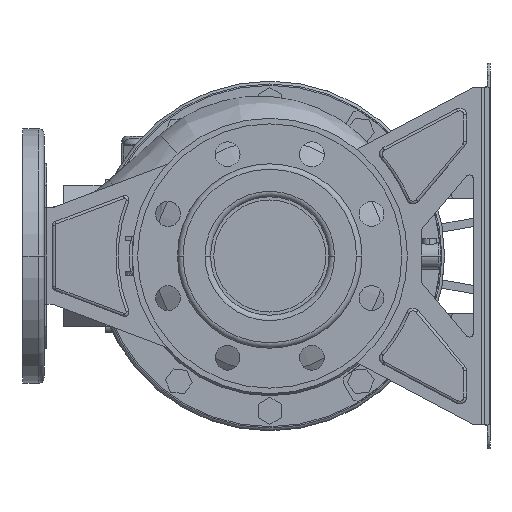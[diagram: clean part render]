
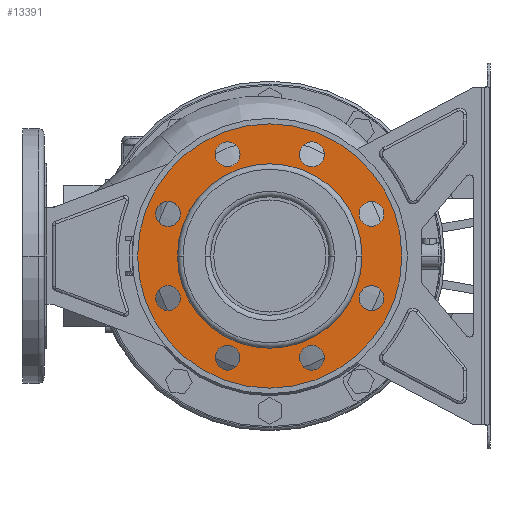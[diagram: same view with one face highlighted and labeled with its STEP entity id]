
A CAD part, left-side view. The second image highlights one B-rep face of the part: STEP entity #13391.
In plain terms, the highlighted planar face has unit normal (-1, 0, 0).
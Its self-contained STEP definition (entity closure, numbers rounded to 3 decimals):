
#12524=CARTESIAN_POINT('',(14.,0.,0.));
#12525=DIRECTION('',(-1.,0.,0.));
#12526=DIRECTION('',(0.,1.,0.));
#12527=AXIS2_PLACEMENT_3D('',#12524,#12525,#12526);
#12532=CARTESIAN_POINT('',(14.,0.,0.));
#12533=DIRECTION('',(1.,0.,0.));
#12534=DIRECTION('',(0.,1.,0.));
#12535=AXIS2_PLACEMENT_3D('',#12532,#12533,#12534);
#12540=CARTESIAN_POINT('',(14.,-73.91,30.615));
#12541=DIRECTION('',(1.,0.,0.));
#12542=DIRECTION('',(0.,1.,0.));
#12543=AXIS2_PLACEMENT_3D('',#12540,#12541,#12542);
#12548=CARTESIAN_POINT('',(14.,-73.91,30.615));
#12549=DIRECTION('',(1.,0.,0.));
#12550=DIRECTION('',(0.,-1.,0.));
#12551=AXIS2_PLACEMENT_3D('',#12548,#12549,#12550);
#12556=CARTESIAN_POINT('',(14.,-73.91,-30.615));
#12557=DIRECTION('',(1.,0.,0.));
#12558=DIRECTION('',(0.,0.707,0.707));
#12559=AXIS2_PLACEMENT_3D('',#12556,#12557,#12558);
#12564=CARTESIAN_POINT('',(14.,-73.91,-30.615));
#12565=DIRECTION('',(1.,0.,0.));
#12566=DIRECTION('',(0.,-0.707,-0.707));
#12567=AXIS2_PLACEMENT_3D('',#12564,#12565,#12566);
#12572=CARTESIAN_POINT('',(14.,-30.615,-73.91));
#12573=DIRECTION('',(1.,0.,0.));
#12574=DIRECTION('',(0.,0.,1.));
#12575=AXIS2_PLACEMENT_3D('',#12572,#12573,#12574);
#12580=CARTESIAN_POINT('',(14.,-30.615,-73.91));
#12581=DIRECTION('',(1.,0.,0.));
#12582=DIRECTION('',(0.,0.,-1.));
#12583=AXIS2_PLACEMENT_3D('',#12580,#12581,#12582);
#12588=CARTESIAN_POINT('',(14.,30.615,-73.91));
#12589=DIRECTION('',(1.,0.,0.));
#12590=DIRECTION('',(0.,-0.707,0.707));
#12591=AXIS2_PLACEMENT_3D('',#12588,#12589,#12590);
#12596=CARTESIAN_POINT('',(14.,30.615,-73.91));
#12597=DIRECTION('',(1.,0.,0.));
#12598=DIRECTION('',(0.,0.707,-0.707));
#12599=AXIS2_PLACEMENT_3D('',#12596,#12597,#12598);
#12604=CARTESIAN_POINT('',(14.,73.91,-30.615));
#12605=DIRECTION('',(1.,0.,0.));
#12606=DIRECTION('',(0.,-1.,0.));
#12607=AXIS2_PLACEMENT_3D('',#12604,#12605,#12606);
#12612=CARTESIAN_POINT('',(14.,73.91,-30.615));
#12613=DIRECTION('',(1.,0.,0.));
#12614=DIRECTION('',(0.,1.,0.));
#12615=AXIS2_PLACEMENT_3D('',#12612,#12613,#12614);
#12620=CARTESIAN_POINT('',(14.,73.91,30.615));
#12621=DIRECTION('',(1.,0.,0.));
#12622=DIRECTION('',(0.,-0.707,-0.707));
#12623=AXIS2_PLACEMENT_3D('',#12620,#12621,#12622);
#12628=CARTESIAN_POINT('',(14.,73.91,30.615));
#12629=DIRECTION('',(1.,0.,0.));
#12630=DIRECTION('',(0.,0.707,0.707));
#12631=AXIS2_PLACEMENT_3D('',#12628,#12629,#12630);
#12636=CARTESIAN_POINT('',(14.,30.615,73.91));
#12637=DIRECTION('',(1.,0.,0.));
#12638=DIRECTION('',(0.,0.,-1.));
#12639=AXIS2_PLACEMENT_3D('',#12636,#12637,#12638);
#12644=CARTESIAN_POINT('',(14.,30.615,73.91));
#12645=DIRECTION('',(1.,0.,0.));
#12646=DIRECTION('',(0.,0.,1.));
#12647=AXIS2_PLACEMENT_3D('',#12644,#12645,#12646);
#12652=CARTESIAN_POINT('',(14.,-30.615,73.91));
#12653=DIRECTION('',(1.,0.,0.));
#12654=DIRECTION('',(0.,0.707,-0.707));
#12655=AXIS2_PLACEMENT_3D('',#12652,#12653,#12654);
#12660=CARTESIAN_POINT('',(14.,-30.615,73.91));
#12661=DIRECTION('',(1.,0.,0.));
#12662=DIRECTION('',(0.,-0.707,0.707));
#12663=AXIS2_PLACEMENT_3D('',#12660,#12661,#12662);
#12668=CARTESIAN_POINT('',(14.,0.,0.));
#12669=DIRECTION('',(1.,0.,0.));
#12670=DIRECTION('',(0.,1.,0.));
#12671=AXIS2_PLACEMENT_3D('',#12668,#12669,#12670);
#12690=CARTESIAN_POINT('',(14.,0.,0.));
#12691=DIRECTION('',(-1.,0.,0.));
#12692=DIRECTION('',(0.,1.,0.));
#12693=AXIS2_PLACEMENT_3D('',#12690,#12691,#12692);
#12911=CARTESIAN_POINT('',(14.,96.,0.));
#12913=VERTEX_POINT('',#12911);
#12914=CARTESIAN_POINT('',(14.,67.,0.));
#12916=VERTEX_POINT('',#12914);
#12943=CARTESIAN_POINT('',(14.,-96.,0.));
#12945=VERTEX_POINT('',#12943);
#12946=CARTESIAN_POINT('',(14.,-67.,0.));
#12948=VERTEX_POINT('',#12946);
#12958=CARTESIAN_POINT('',(14.,-64.91,30.615));
#12959=CARTESIAN_POINT('',(14.,-82.91,30.615));
#12960=VERTEX_POINT('',#12958);
#12961=VERTEX_POINT('',#12959);
#12966=CARTESIAN_POINT('',(14.,-67.546,-24.251));
#12967=CARTESIAN_POINT('',(14.,-80.274,-36.979));
#12968=VERTEX_POINT('',#12966);
#12969=VERTEX_POINT('',#12967);
#12974=CARTESIAN_POINT('',(14.,-30.615,-64.91));
#12975=CARTESIAN_POINT('',(14.,-30.615,-82.91));
#12976=VERTEX_POINT('',#12974);
#12977=VERTEX_POINT('',#12975);
#12982=CARTESIAN_POINT('',(14.,24.251,-67.546));
#12983=CARTESIAN_POINT('',(14.,36.979,-80.274));
#12984=VERTEX_POINT('',#12982);
#12985=VERTEX_POINT('',#12983);
#12990=CARTESIAN_POINT('',(14.,64.91,-30.615));
#12991=CARTESIAN_POINT('',(14.,82.91,-30.615));
#12992=VERTEX_POINT('',#12990);
#12993=VERTEX_POINT('',#12991);
#12998=CARTESIAN_POINT('',(14.,67.546,24.251));
#12999=CARTESIAN_POINT('',(14.,80.274,36.979));
#13000=VERTEX_POINT('',#12998);
#13001=VERTEX_POINT('',#12999);
#13006=CARTESIAN_POINT('',(14.,30.615,64.91));
#13007=CARTESIAN_POINT('',(14.,30.615,82.91));
#13008=VERTEX_POINT('',#13006);
#13009=VERTEX_POINT('',#13007);
#13014=CARTESIAN_POINT('',(14.,-24.251,67.546));
#13015=CARTESIAN_POINT('',(14.,-36.979,80.274));
#13016=VERTEX_POINT('',#13014);
#13017=VERTEX_POINT('',#13015);
#13328=CARTESIAN_POINT('',(14.,0.,0.));
#13329=DIRECTION('',(1.,0.,0.));
#13330=DIRECTION('',(0.,-1.,0.));
#13331=AXIS2_PLACEMENT_3D('',#13328,#13329,#13330);
#13332=PLANE('',#13331);
#13333=ORIENTED_EDGE('',*,*,#13321,.F.);
#13334=ORIENTED_EDGE('',*,*,#13310,.T.);
#13335=EDGE_LOOP('',(#13333,#13334));
#13336=FACE_OUTER_BOUND('',#13335,.F.);
#13338=ORIENTED_EDGE('',*,*,#13337,.F.);
#13340=ORIENTED_EDGE('',*,*,#13339,.T.);
#13341=EDGE_LOOP('',(#13338,#13340));
#13342=FACE_BOUND('',#13341,.F.);
#13344=ORIENTED_EDGE('',*,*,#13343,.F.);
#13346=ORIENTED_EDGE('',*,*,#13345,.F.);
#13347=EDGE_LOOP('',(#13344,#13346));
#13348=FACE_BOUND('',#13347,.F.);
#13350=ORIENTED_EDGE('',*,*,#13349,.F.);
#13352=ORIENTED_EDGE('',*,*,#13351,.F.);
#13353=EDGE_LOOP('',(#13350,#13352));
#13354=FACE_BOUND('',#13353,.F.);
#13356=ORIENTED_EDGE('',*,*,#13355,.F.);
#13358=ORIENTED_EDGE('',*,*,#13357,.F.);
#13359=EDGE_LOOP('',(#13356,#13358));
#13360=FACE_BOUND('',#13359,.F.);
#13362=ORIENTED_EDGE('',*,*,#13361,.F.);
#13364=ORIENTED_EDGE('',*,*,#13363,.F.);
#13365=EDGE_LOOP('',(#13362,#13364));
#13366=FACE_BOUND('',#13365,.F.);
#13368=ORIENTED_EDGE('',*,*,#13367,.F.);
#13370=ORIENTED_EDGE('',*,*,#13369,.F.);
#13371=EDGE_LOOP('',(#13368,#13370));
#13372=FACE_BOUND('',#13371,.F.);
#13374=ORIENTED_EDGE('',*,*,#13373,.F.);
#13376=ORIENTED_EDGE('',*,*,#13375,.F.);
#13377=EDGE_LOOP('',(#13374,#13376));
#13378=FACE_BOUND('',#13377,.F.);
#13380=ORIENTED_EDGE('',*,*,#13379,.F.);
#13382=ORIENTED_EDGE('',*,*,#13381,.F.);
#13383=EDGE_LOOP('',(#13380,#13382));
#13384=FACE_BOUND('',#13383,.F.);
#13386=ORIENTED_EDGE('',*,*,#13385,.F.);
#13388=ORIENTED_EDGE('',*,*,#13387,.F.);
#13389=EDGE_LOOP('',(#13386,#13388));
#13390=FACE_BOUND('',#13389,.F.);
#12528=CIRCLE('',#12527,96.);
#12536=CIRCLE('',#12535,96.);
#12544=CIRCLE('',#12543,9.);
#12552=CIRCLE('',#12551,9.);
#12560=CIRCLE('',#12559,9.);
#12568=CIRCLE('',#12567,9.);
#12576=CIRCLE('',#12575,9.);
#12584=CIRCLE('',#12583,9.);
#12592=CIRCLE('',#12591,9.);
#12600=CIRCLE('',#12599,9.);
#12608=CIRCLE('',#12607,9.);
#12616=CIRCLE('',#12615,9.);
#12624=CIRCLE('',#12623,9.);
#12632=CIRCLE('',#12631,9.);
#12640=CIRCLE('',#12639,9.);
#12648=CIRCLE('',#12647,9.);
#12656=CIRCLE('',#12655,9.);
#12664=CIRCLE('',#12663,9.);
#12672=CIRCLE('',#12671,67.);
#12694=CIRCLE('',#12693,67.);
#13310=EDGE_CURVE('',#12913,#12945,#12536,.T.);
#13321=EDGE_CURVE('',#12913,#12945,#12528,.T.);
#13337=EDGE_CURVE('',#12916,#12948,#12672,.T.);
#13339=EDGE_CURVE('',#12916,#12948,#12694,.T.);
#13343=EDGE_CURVE('',#12960,#12961,#12544,.T.);
#13345=EDGE_CURVE('',#12961,#12960,#12552,.T.);
#13349=EDGE_CURVE('',#12968,#12969,#12560,.T.);
#13351=EDGE_CURVE('',#12969,#12968,#12568,.T.);
#13355=EDGE_CURVE('',#12976,#12977,#12576,.T.);
#13357=EDGE_CURVE('',#12977,#12976,#12584,.T.);
#13361=EDGE_CURVE('',#12984,#12985,#12592,.T.);
#13363=EDGE_CURVE('',#12985,#12984,#12600,.T.);
#13367=EDGE_CURVE('',#12992,#12993,#12608,.T.);
#13369=EDGE_CURVE('',#12993,#12992,#12616,.T.);
#13373=EDGE_CURVE('',#13000,#13001,#12624,.T.);
#13375=EDGE_CURVE('',#13001,#13000,#12632,.T.);
#13379=EDGE_CURVE('',#13008,#13009,#12640,.T.);
#13381=EDGE_CURVE('',#13009,#13008,#12648,.T.);
#13385=EDGE_CURVE('',#13016,#13017,#12656,.T.);
#13387=EDGE_CURVE('',#13017,#13016,#12664,.T.);
#13391=ADVANCED_FACE('',(#13336,#13342,#13348,#13354,#13360,#13366,#13372,
#13378,#13384,#13390),#13332,.F.);
